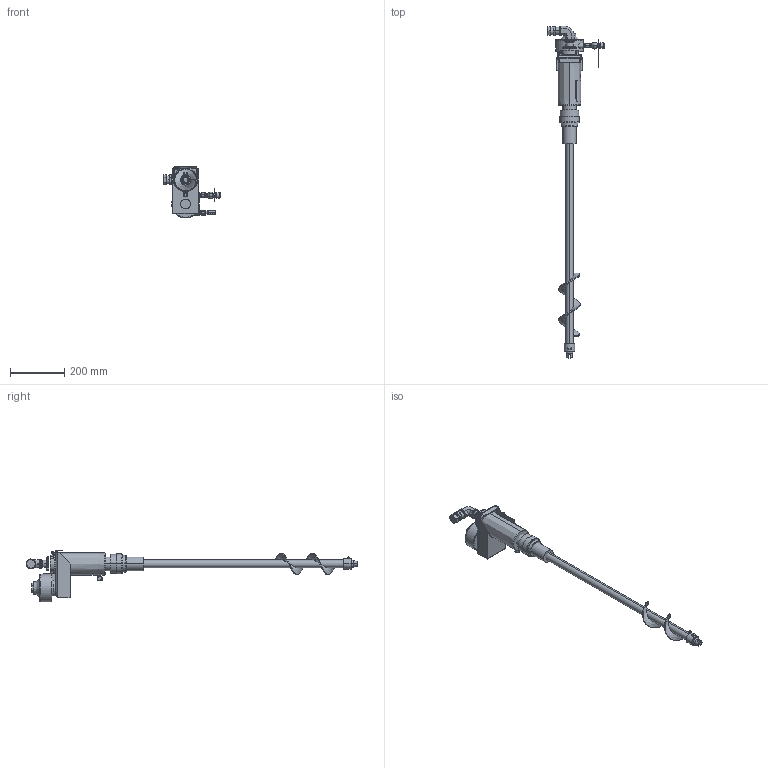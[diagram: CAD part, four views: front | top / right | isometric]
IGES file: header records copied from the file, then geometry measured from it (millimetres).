
Start section:  PTC IGES file: 236760-en-p.igs
Global section: file name: 236760-en-p.igs; native system: Creo Parametric by PTC Inc.; preprocessor: 2021072; author: qtmwp1; organization: Unknown; date: 20220214.110627; units: inch
Bounding box: 211.57 x 1225.54 x 191.77 mm (x, y, z)
Surface area: 634272.3 mm2 (no closed solid volume)
Topology: 0 solids, 0 shells, 407 faces, 2044 edges, 2044 vertices
Faces by surface type: revolution 218, bspline 189
